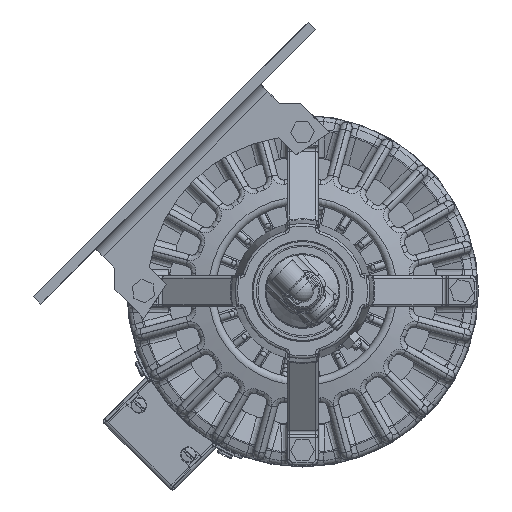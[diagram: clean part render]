
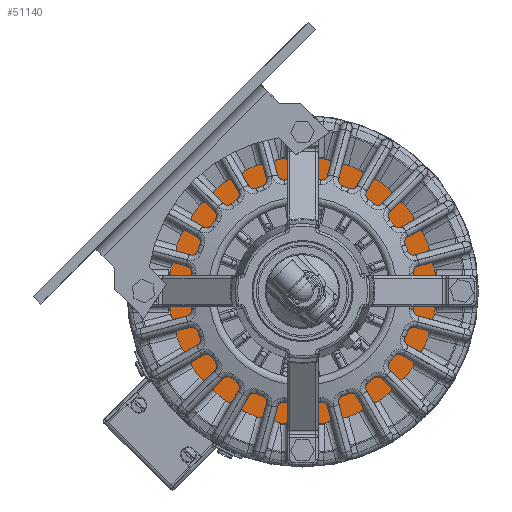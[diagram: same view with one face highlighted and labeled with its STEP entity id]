
A CAD part, front view. The second image highlights one B-rep face of the part: STEP entity #51140.
In plain terms, the highlighted planar face has unit normal (0, -1, 0).
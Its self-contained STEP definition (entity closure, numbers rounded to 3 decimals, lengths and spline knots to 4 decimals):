
#9791=FACE_BOUND('',#13363,.T.);
#10000=FACE_OUTER_BOUND('',#13362,.T.);
#13362=EDGE_LOOP('',(#33788));
#13363=EDGE_LOOP('',(#33789));
#16933=CIRCLE('',#54531,3.3045);
#16934=CIRCLE('',#54532,2.6675);
#20399=VERTEX_POINT('',#74550);
#20400=VERTEX_POINT('',#74552);
#25445=EDGE_CURVE('',#20399,#20399,#16933,.T.);
#25446=EDGE_CURVE('',#20400,#20400,#16934,.T.);
#33788=ORIENTED_EDGE('',*,*,#25445,.T.);
#33789=ORIENTED_EDGE('',*,*,#25446,.T.);
#50474=PLANE('',#54530);
#51140=ADVANCED_FACE('',(#10000,#9791),#50474,.F.);
#54530=AXIS2_PLACEMENT_3D('',#74549,#60475,#60476);
#54531=AXIS2_PLACEMENT_3D('',#74551,#60477,#60478);
#54532=AXIS2_PLACEMENT_3D('',#74553,#60479,#60480);
#60475=DIRECTION('center_axis',(0.,1.,0.));
#60476=DIRECTION('ref_axis',(0.,0.,1.));
#60477=DIRECTION('center_axis',(0.,-1.,0.));
#60478=DIRECTION('ref_axis',(-1.,0.,0.));
#60479=DIRECTION('center_axis',(0.,1.,0.));
#60480=DIRECTION('ref_axis',(0.,0.,1.));
#74549=CARTESIAN_POINT('Origin',(0.,0.125,0.));
#74550=CARTESIAN_POINT('',(-1.6523,0.125,-2.8618));
#74551=CARTESIAN_POINT('Origin',(0.,0.125,0.));
#74552=CARTESIAN_POINT('',(0.,0.125,2.6675));
#74553=CARTESIAN_POINT('Origin',(0.,0.125,0.));
